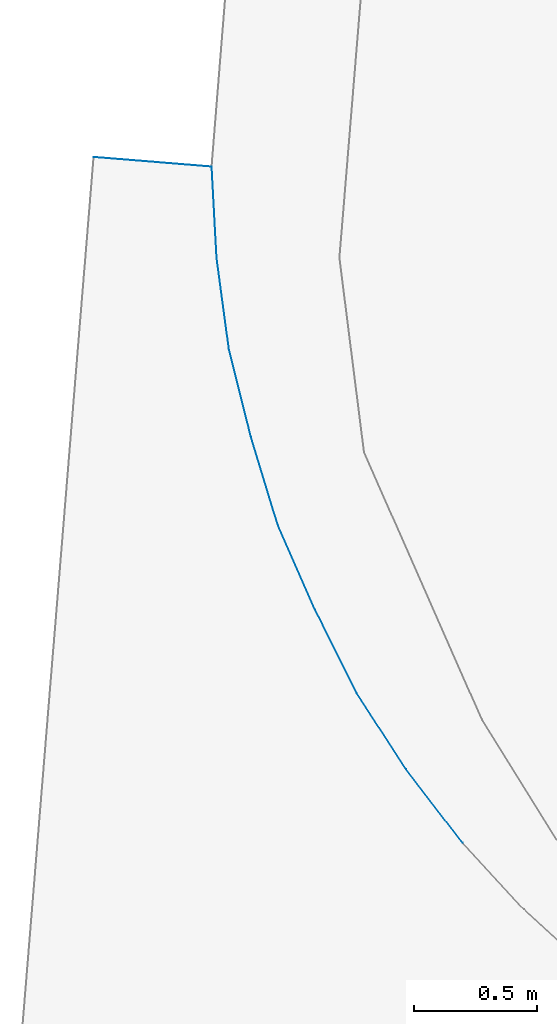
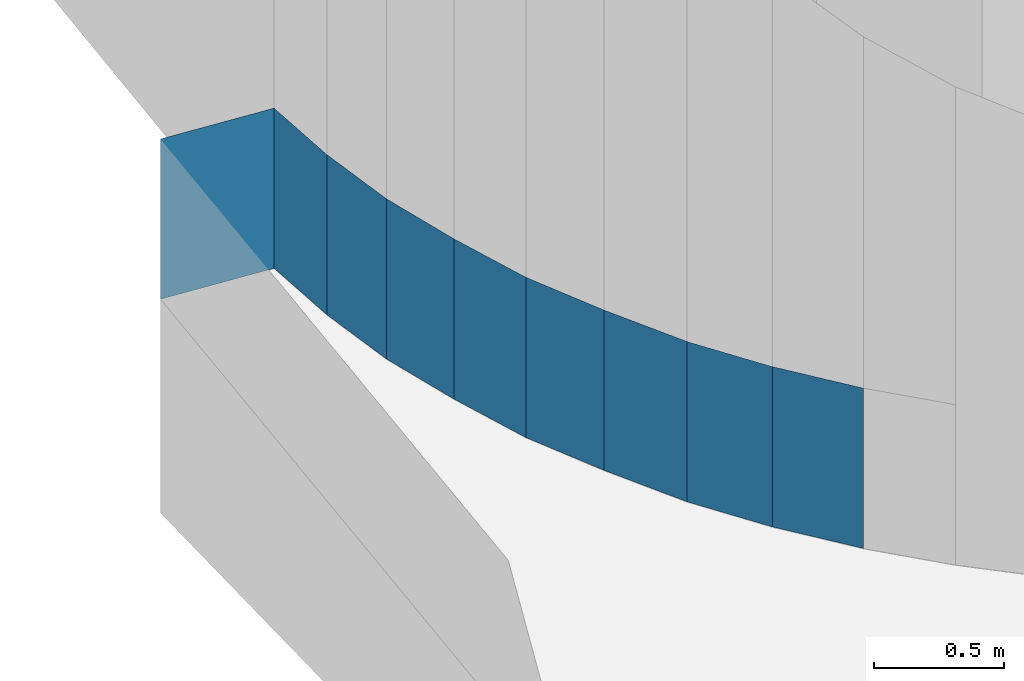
# Not in any storey, part 119 of 136: 18 walls.
"""IFC4 building model written with IfcOpenShell, lengths in metres."""

import ifcopenshell
import ifcopenshell.guid

model = None  # the IFC model being written
_history = None  # IfcOwnerHistory: only IFC2X3 demands one
_inside = {}  # id of a spatial element -> (the spatial element, [elements in it])
_under = {}  # id of a project, library or spatial element -> (it, [spatial elements below it])
_declared = {}  # id of a project -> (the project, [libraries it declares])
_typed = {}  # id of a type object -> (the type object, [elements of that type])
_made_of = {}  # id of a material, layer set ... -> (it, [elements and type objects made of it])


def new_model(schema):
    """Start an empty IFC model of exactly this schema.

    Asked for "IFC4X3", IfcOpenShell would pick the latest addendum, in which some entities
    have other attributes; the version numbers below select the first issue.
    IFC2X3 requires an IfcOwnerHistory on every rooted entity: one is made here for all.
    """
    global model, _history
    if schema == "IFC4X3":
        model = ifcopenshell.file(schema_version=(4, 3, 0, 0))
    else:
        model = ifcopenshell.file(schema=schema)
    _inside.clear()
    _under.clear()
    _declared.clear()
    _typed.clear()
    _made_of.clear()
    _history = None
    if model.schema == "IFC2X3":
        org = make("IfcOrganization", Name="unknown")
        user = make(
            "IfcPersonAndOrganization",
            ThePerson=make("IfcPerson", FamilyName="unknown"),
            TheOrganization=org,
        )
        app = make(
            "IfcApplication",
            ApplicationDeveloper=org,
            Version="unknown",
            ApplicationFullName="unknown",
            ApplicationIdentifier="unknown",
        )
        _history = make(
            "IfcOwnerHistory",
            OwningUser=user,
            OwningApplication=app,
            ChangeAction="ADDED",
            CreationDate=0,
        )
    return model


def make(cls, **values):
    """One entity of the class cls with the attributes given. An attribute that is None is left unset."""
    return model.create_entity(
        cls, **{name: value for name, value in values.items() if value is not None}
    )


def entity(cls, *values):
    """Any entity or typed value of the class cls, its attributes in the order of the schema. None: left unset."""
    e = model.create_entity(cls)
    for i, value in enumerate(values):
        if value is not None:
            e[i] = value
    return e


def rooted(cls, **values):
    """An entity with a GlobalId (a new one), such as an element, a storey or a relation."""
    return make(cls, GlobalId=ifcopenshell.guid.new(), OwnerHistory=_history, **values)


def si_unit(unit_type, name, prefix=None):
    """IfcSIUnit, for example si_unit("LENGTHUNIT", "METRE", prefix="MILLI")."""
    return make("IfcSIUnit", UnitType=unit_type, Prefix=prefix, Name=name)


def converted_unit(unit_type, name, factor, base, dimensions=None, offset=None):
    """IfcConversionBasedUnit, such as the inch: factor (a typed value) times the base unit."""
    return make(
        "IfcConversionBasedUnit"
        if offset is None
        else "IfcConversionBasedUnitWithOffset",
        ConversionOffset=offset,
        Dimensions=None
        if dimensions is None
        else entity("IfcDimensionalExponents", *dimensions),
        UnitType=unit_type,
        Name=name,
        ConversionFactor=make(
            "IfcMeasureWithUnit", ValueComponent=factor, UnitComponent=base
        ),
    )


def assignment(units):
    """IfcUnitAssignment: the units of a project."""
    return None if units is None else make("IfcUnitAssignment", Units=units)


def point(xyz):
    """IfcCartesianPoint."""
    return None if xyz is None else make("IfcCartesianPoint", Coordinates=xyz)


def direction(xyz):
    """IfcDirection."""
    return None if xyz is None else make("IfcDirection", DirectionRatios=xyz)


def frame(location, z_axis=None, x_axis=None):
    """IfcAxis2Placement3D, a coordinate frame: its origin and axes. An axis left out is left unset."""
    return make(
        "IfcAxis2Placement3D",
        Location=point(location),
        Axis=direction(z_axis),
        RefDirection=direction(x_axis),
    )


def origin():
    """The frame at (0, 0, 0) with its axes left unset."""
    return frame((0.0, 0.0, 0.0))


def place(relative_to, where):
    """IfcLocalPlacement: puts the frame where relative to a parent placement (None: the world)."""
    return make(
        "IfcLocalPlacement", PlacementRelTo=relative_to, RelativePlacement=where
    )


def context(
    kind, dimensions, precision=None, world=None, true_north=None, identifier=None
):
    """IfcGeometricRepresentationContext, for example the 3D "Model" context."""
    return make(
        "IfcGeometricRepresentationContext",
        ContextIdentifier=identifier,
        ContextType=kind,
        CoordinateSpaceDimension=dimensions,
        Precision=precision,
        WorldCoordinateSystem=world,
        TrueNorth=true_north,
    )


def subcontext(parent, identifier, kind, view, scale=None):
    """IfcGeometricRepresentationSubContext, for example "Body" below "Model"."""
    return make(
        "IfcGeometricRepresentationSubContext",
        ContextIdentifier=identifier,
        ContextType=kind,
        ParentContext=parent,
        TargetScale=scale,
        TargetView=view,
    )


def project(units=None, contexts=None):
    """IfcProject with its units and contexts."""
    return rooted(
        "IfcProject",
        Name="project",
        RepresentationContexts=contexts,
        UnitsInContext=assignment(units),
    )


def spatial(cls, under=None, at=None, **own):
    """A site, building, storey or space (cls), placed at a placement, below another one or the project."""
    s = rooted(cls, ObjectPlacement=at, **own)
    if under is not None:
        _under.setdefault(under.id(), (under, []))[1].append(s)
    return s


def faces_of(points, faces, orient=None, outer=None):
    """IfcFace entities. A face is a list of loops; a loop is a list of indices into points, from 0.

    orient and outer hold one flag for each loop. By default every Orientation is true, the
    first loop of a face is its IfcFaceOuterBound and the others are IfcFaceBound.
    """
    made = []
    for i, loops in enumerate(faces):
        bounds = []
        for j, loop in enumerate(loops):
            is_outer = j == 0 if outer is None else outer[i][j]
            bounds.append(
                make(
                    "IfcFaceOuterBound" if is_outer else "IfcFaceBound",
                    Bound=make("IfcPolyLoop", Polygon=[points[k] for k in loop]),
                    Orientation=True if orient is None else orient[i][j],
                )
            )
        made.append(make("IfcFace", Bounds=bounds))
    return made


def face_set(faces, orient=None, outer=None):
    """The faces of one IfcConnectedFaceSet. surface_model builds it on its shared points."""
    return ("IfcConnectedFaceSet", faces, orient, outer)


def surface_model(cls, points, shells):
    """IfcFaceBasedSurfaceModel or IfcShellBasedSurfaceModel (cls): surfaces that need not close."""
    shared = [point(p) for p in points]
    made = [make(c, CfsFaces=faces_of(shared, fs, o, b)) for c, fs, o, b in shells]
    if cls == "IfcFaceBasedSurfaceModel":
        return make(cls, FbsmFaces=made)
    return make(cls, SbsmBoundary=made)


def shape(context_of_items, identifier, shape_type, items):
    """IfcShapeRepresentation: the items that make up one representation, for example the "Body"."""
    return make(
        "IfcShapeRepresentation",
        ContextOfItems=context_of_items,
        RepresentationIdentifier=identifier,
        RepresentationType=shape_type,
        Items=items,
    )


def made_of(thing, what):
    """Note that an element or type object is made of a material, layer set ...; save() writes the relation."""
    if what is not None:
        _made_of.setdefault(what.id(), (what, []))[1].append(thing)
    return thing


def element(
    cls,
    number,
    at=None,
    inside=None,
    cuts=None,
    type_object=None,
    material=None,
    context=None,
    identifier="Body",
    shape_type=None,
    held_by="IfcProductDefinitionShape",
    body=None,
    shapes=None,
    **own,
):
    """One element of the class cls, such as IfcWall. Its Tag is "e" and its number.

    at: its placement. inside: the storey or other place that contains it. cuts: it is an
    opening in that element (IfcRelVoidsElement). A single representation is given by context,
    identifier, shape_type and body (its items); several are given by shapes. held_by: the class
    of the entity that holds the representations. save() writes the other relations.
    """
    e = rooted(cls, Tag="e%d" % number, ObjectPlacement=at, **own)
    if body is not None:
        shapes = [shape(context, identifier, shape_type, body)]
    if shapes is not None:
        e.Representation = make(held_by, Representations=shapes)
    if inside is not None:
        _inside.setdefault(inside.id(), (inside, []))[1].append(e)
    if cuts is not None:
        rooted(
            "IfcRelVoidsElement", RelatingBuildingElement=cuts, RelatedOpeningElement=e
        )
    if type_object is not None:
        _typed.setdefault(type_object.id(), (type_object, []))[1].append(e)
    return made_of(e, material)


def aggregate(whole, parts):
    """IfcRelAggregates: a whole, such as a stair, and the parts it consists of."""
    return rooted("IfcRelAggregates", RelatingObject=whole, RelatedObjects=parts)


def save(model, path):
    """Write the relations noted so far, then the file.

    IfcRelAggregates (storeys below a building ...), IfcRelContainedInSpatialStructure (elements
    in a storey), IfcRelDefinesByType, IfcRelAssociatesMaterial and IfcRelDeclares: one each for
    every whole, place, type object, material and project.
    """
    for whole, parts in _under.values():
        aggregate(whole, parts)
    for where, things in _inside.values():
        rooted(
            "IfcRelContainedInSpatialStructure",
            RelatedElements=things,
            RelatingStructure=where,
        )
    for kind, things in _typed.values():
        rooted("IfcRelDefinesByType", RelatedObjects=things, RelatingType=kind)
    for what, things in _made_of.values():
        rooted("IfcRelAssociatesMaterial", RelatedObjects=things, RelatingMaterial=what)
    for by, libraries in _declared.values():
        rooted("IfcRelDeclares", RelatingContext=by, RelatedDefinitions=libraries)
    model.write(path)


model = new_model("IFC4")

# Units and contexts
model_context = context("Model", 3, precision=1e-05, world=origin())
body_context = subcontext(model_context, "Body", "Model", "MODEL_VIEW")
ifc_project = project(units=[converted_unit("PLANEANGLEUNIT", "DEGREE", entity("IfcRatioMeasure", 0.0174532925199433), si_unit("PLANEANGLEUNIT", "RADIAN"), dimensions=[0, 0, 0, 0, 0, 0, 0]), si_unit("AREAUNIT", "SQUARE_METRE"), si_unit("LENGTHUNIT", "METRE")], contexts=[model_context])

# Site, building
site_placement = place(None, origin())
site = spatial("IfcSite", under=ifc_project, at=site_placement, Name="_site")
building_placement = place(site_placement, origin())
building = spatial("IfcBuilding", under=site, at=building_placement, Name="_building")

# Walls
wall_1_placement = place(building_placement, origin())
element("IfcWall", 1, at=wall_1_placement, inside=building, Name="Wall", PredefinedType="NOTDEFINED", context=body_context, shape_type="SurfaceModel", body=[
    surface_model("IfcFaceBasedSurfaceModel", [(175.42, 58.14, 37.93), (175.57, 57.8, 37.93), (175.57, 57.8, 38.68), (175.42, 58.14, 38.68)], [face_set([[[0, 1, 2, 3]]])]),
])
wall_2_placement = place(building_placement, origin())
element("IfcWall", 2, at=wall_2_placement, inside=building, Name="Wall", PredefinedType="NOTDEFINED", context=body_context, shape_type="SurfaceModel", body=[
    surface_model("IfcFaceBasedSurfaceModel", [(175.17, 59.23, 37.93), (175.22, 58.86, 37.93), (175.22, 58.86, 38.68), (175.17, 59.23, 38.68)], [face_set([[[0, 1, 2, 3]]])]),
])
wall_3_placement = place(building_placement, origin())
element("IfcWall", 3, at=wall_3_placement, inside=building, Name="Wall", PredefinedType="NOTDEFINED", context=body_context, shape_type="SurfaceModel", body=[
    surface_model("IfcFaceBasedSurfaceModel", [(175.31, 58.5, 37.93), (175.42, 58.14, 37.93), (175.42, 58.14, 38.68), (175.31, 58.5, 38.68)], [face_set([[[0, 1, 2, 3]]])]),
])
wall_4_placement = place(building_placement, origin())
element("IfcWall", 4, at=wall_4_placement, inside=building, Name="Wall", PredefinedType="NOTDEFINED", context=body_context, shape_type="SurfaceModel", body=[
    surface_model("IfcFaceBasedSurfaceModel", [(175.57, 57.8, 37.93), (175.74, 57.46, 37.93), (175.74, 57.46, 38.68), (175.57, 57.8, 38.68)], [face_set([[[0, 1, 2, 3]]])]),
])
wall_5_placement = place(building_placement, origin())
element("IfcWall", 5, at=wall_5_placement, inside=building, Name="Wall", PredefinedType="NOTDEFINED", context=body_context, shape_type="SurfaceModel", body=[
    surface_model("IfcFaceBasedSurfaceModel", [(175.42, 58.14, 37.93), (175.57, 57.8, 37.93), (175.57, 57.8, 38.68), (175.42, 58.14, 38.68)], [face_set([[[0, 1, 2, 3]]])]),
])
wall_6_placement = place(building_placement, origin())
element("IfcWall", 6, at=wall_6_placement, inside=building, Name="Wall", PredefinedType="NOTDEFINED", context=body_context, shape_type="SurfaceModel", body=[
    surface_model("IfcFaceBasedSurfaceModel", [(175.94, 57.15, 37.93), (176.17, 56.851, 37.93), (176.17, 56.851, 38.68), (175.94, 57.15, 38.68)], [face_set([[[0, 1, 2, 3]]])]),
])
wall_7_placement = place(building_placement, origin())
element("IfcWall", 7, at=wall_7_placement, inside=building, Name="Wall", PredefinedType="NOTDEFINED", context=body_context, shape_type="SurfaceModel", body=[
    surface_model("IfcFaceBasedSurfaceModel", [(175.57, 57.8, 37.93), (175.74, 57.46, 37.93), (175.74, 57.46, 38.68), (175.57, 57.8, 38.68)], [face_set([[[0, 1, 2, 3]]])]),
])
wall_8_placement = place(building_placement, origin())
element("IfcWall", 8, at=wall_8_placement, inside=building, Name="Wall", PredefinedType="NOTDEFINED", context=body_context, shape_type="SurfaceModel", body=[
    surface_model("IfcFaceBasedSurfaceModel", [(175.31, 58.5, 37.93), (175.42, 58.14, 37.93), (175.42, 58.14, 38.68), (175.31, 58.5, 38.68)], [face_set([[[0, 1, 2, 3]]])]),
])
wall_9_placement = place(building_placement, origin())
element("IfcWall", 9, at=wall_9_placement, inside=building, Name="Wall", PredefinedType="NOTDEFINED", context=body_context, shape_type="SurfaceModel", body=[
    surface_model("IfcFaceBasedSurfaceModel", [(174.67, 59.64, 37.93), (175.15, 59.601, 37.93), (175.15, 59.601, 38.68), (174.67, 59.64, 38.68)], [face_set([[[0, 1, 2, 3]]])]),
])
wall_10_placement = place(building_placement, origin())
element("IfcWall", 10, at=wall_10_placement, inside=building, Name="Wall", PredefinedType="NOTDEFINED", context=body_context, shape_type="SurfaceModel", body=[
    surface_model("IfcFaceBasedSurfaceModel", [(175.94, 57.15, 37.93), (176.17, 56.851, 37.93), (176.17, 56.851, 38.68), (175.94, 57.15, 38.68)], [face_set([[[0, 1, 2, 3]]])]),
])
wall_11_placement = place(building_placement, origin())
element("IfcWall", 11, at=wall_11_placement, inside=building, Name="Wall", PredefinedType="NOTDEFINED", context=body_context, shape_type="SurfaceModel", body=[
    surface_model("IfcFaceBasedSurfaceModel", [(174.67, 59.64, 37.93), (175.15, 59.601, 37.93), (175.15, 59.601, 38.68), (174.67, 59.64, 38.68)], [face_set([[[0, 1, 2, 3]]])]),
])
wall_12_placement = place(building_placement, origin())
element("IfcWall", 12, at=wall_12_placement, inside=building, Name="Wall", PredefinedType="NOTDEFINED", context=body_context, shape_type="SurfaceModel", body=[
    surface_model("IfcFaceBasedSurfaceModel", [(175.74, 57.46, 37.93), (175.94, 57.15, 37.93), (175.94, 57.15, 38.68), (175.74, 57.46, 38.68)], [face_set([[[0, 1, 2, 3]]])]),
])
wall_13_placement = place(building_placement, origin())
element("IfcWall", 13, at=wall_13_placement, inside=building, Name="Wall", PredefinedType="NOTDEFINED", context=body_context, shape_type="SurfaceModel", body=[
    surface_model("IfcFaceBasedSurfaceModel", [(175.15, 59.601, 37.93), (175.17, 59.23, 37.93), (175.17, 59.23, 38.68), (175.15, 59.601, 38.68)], [face_set([[[0, 1, 2, 3]]])]),
])
wall_14_placement = place(building_placement, origin())
element("IfcWall", 14, at=wall_14_placement, inside=building, Name="Wall", PredefinedType="NOTDEFINED", context=body_context, shape_type="SurfaceModel", body=[
    surface_model("IfcFaceBasedSurfaceModel", [(175.22, 58.86, 37.93), (175.31, 58.5, 37.93), (175.31, 58.5, 38.68), (175.22, 58.86, 38.68)], [face_set([[[0, 1, 2, 3]]])]),
])
wall_15_placement = place(building_placement, origin())
element("IfcWall", 15, at=wall_15_placement, inside=building, Name="Wall", PredefinedType="NOTDEFINED", context=body_context, shape_type="SurfaceModel", body=[
    surface_model("IfcFaceBasedSurfaceModel", [(175.17, 59.23, 37.93), (175.22, 58.86, 37.93), (175.22, 58.86, 38.68), (175.17, 59.23, 38.68)], [face_set([[[0, 1, 2, 3]]])]),
])
wall_16_placement = place(building_placement, origin())
element("IfcWall", 16, at=wall_16_placement, inside=building, Name="Wall", PredefinedType="NOTDEFINED", context=body_context, shape_type="SurfaceModel", body=[
    surface_model("IfcFaceBasedSurfaceModel", [(175.15, 59.601, 37.93), (175.17, 59.23, 37.93), (175.17, 59.23, 38.68), (175.15, 59.601, 38.68)], [face_set([[[0, 1, 2, 3]]])]),
])
wall_17_placement = place(building_placement, origin())
element("IfcWall", 17, at=wall_17_placement, inside=building, Name="Wall", PredefinedType="NOTDEFINED", context=body_context, shape_type="SurfaceModel", body=[
    surface_model("IfcFaceBasedSurfaceModel", [(175.22, 58.86, 37.93), (175.31, 58.5, 37.93), (175.31, 58.5, 38.68), (175.22, 58.86, 38.68)], [face_set([[[0, 1, 2, 3]]])]),
])
wall_18_placement = place(building_placement, origin())
element("IfcWall", 18, at=wall_18_placement, inside=building, Name="Wall", PredefinedType="NOTDEFINED", context=body_context, shape_type="SurfaceModel", body=[
    surface_model("IfcFaceBasedSurfaceModel", [(175.74, 57.46, 37.93), (175.94, 57.15, 37.93), (175.94, 57.15, 38.68), (175.74, 57.46, 38.68)], [face_set([[[0, 1, 2, 3]]])]),
])

save(model, "model.ifc")
